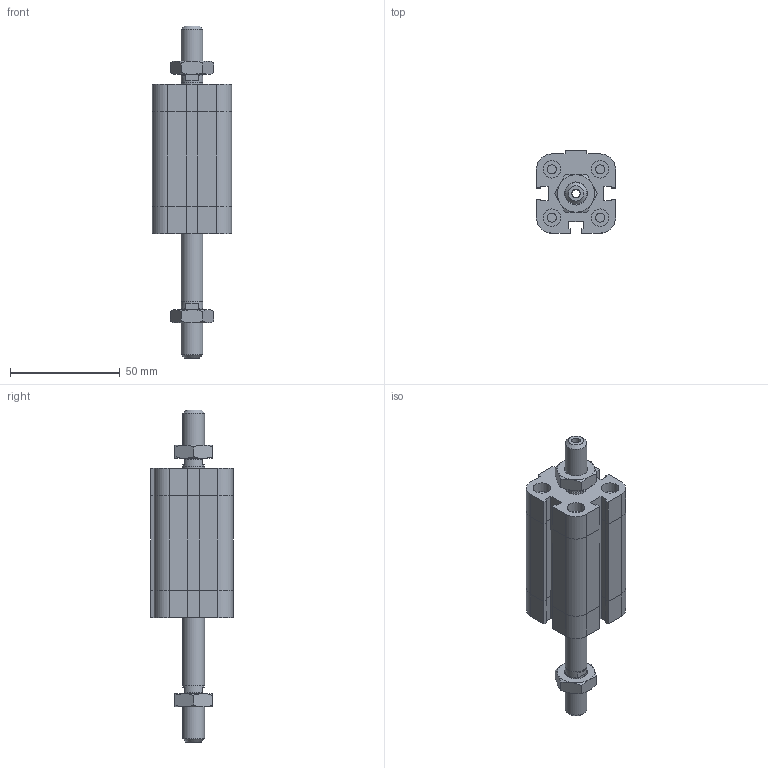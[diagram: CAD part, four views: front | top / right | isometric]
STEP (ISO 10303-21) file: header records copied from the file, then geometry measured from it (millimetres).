
FILE_DESCRIPTION((''),'2;1');
FILE_NAME('I:\Area Tecnica\Disegni\VARIE-3D\Componenti\EUROPE\15##_###_####_05_#\1581_20_0030_05_1.iam.stp','2009-04-20T14:59:54',(''),(''),'Autodesk Inventor 2009','Autodesk Inventor 2009','');
FILE_SCHEMA(('AUTOMOTIVE_DESIGN { 1 0 10303 214 1 1 1 1 }'));
Length unit declared in the file: millimetre
Products named in the file (4): 1581_20_0030_05_1; 1581_20_0030_03_1_C; 1561_20_0030_05_1_S; DBFM10
Assembly tree (4 placements, depth 2):
  1581_20_0030_05_1
    1581_20_0030_03_1_C
    1561_20_0030_05_1_S
    DBFM10  x2
Bounding box: 36 x 37.5 x 151 mm (x, y, z)
Volume: 82618.5 mm3; surface area: 27312.9 mm2
Topology: 4 solids, 4 shells, 223 faces, 486 edges, 291 vertices
Faces by surface type: plane 129, cone 35, bspline 34, cylinder 25
Full cylindrical faces by diameter (mm): 4.134 x4, 7.9 x1, 8 x4, 9.8 x2, 10 x2
Entity records: 5497 total; most frequent: CARTESIAN_POINT 1244, DIRECTION 806, ORIENTED_EDGE 776, EDGE_CURVE 388, AXIS2_PLACEMENT_3D 274, EDGE_LOOP 262, VECTOR 258, LINE 258
